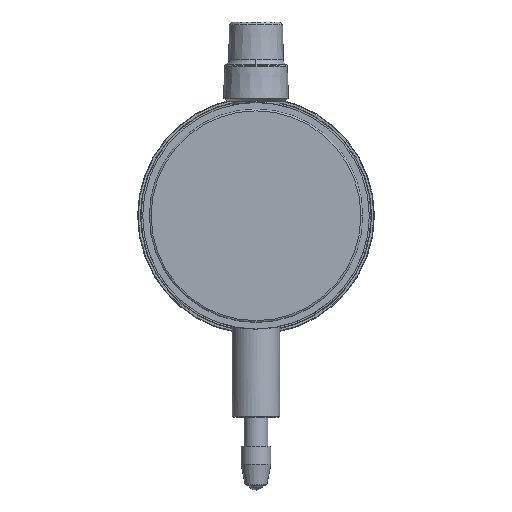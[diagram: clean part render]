
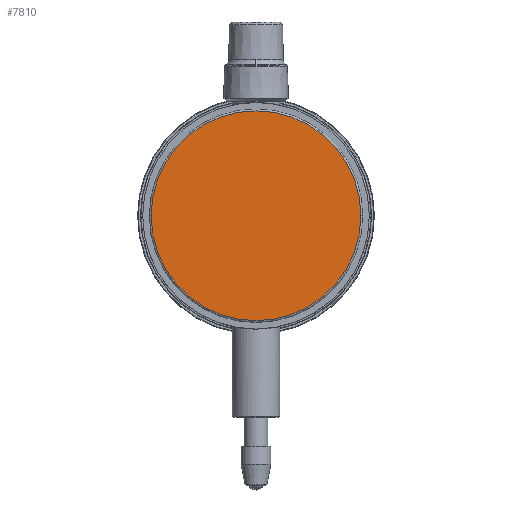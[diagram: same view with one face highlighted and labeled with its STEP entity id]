
A CAD part, left-side view. The second image highlights one B-rep face of the part: STEP entity #7810.
In plain terms, the highlighted planar face has unit normal (-1, 0, 0).
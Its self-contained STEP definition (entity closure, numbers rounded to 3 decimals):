
#7570=CARTESIAN_POINT('',(-1.8,0.,-8.95)
);
#7580=DIRECTION('',(1.,-0.,0.));
#7590=DIRECTION('',(0.,0.,-1.));
#7600=AXIS2_PLACEMENT_3D('',#7570,#7580,#7590);
#7610=PLANE('',#7600);
#7620=CARTESIAN_POINT('',(-1.8,0.,0.));
#7630=DIRECTION('',(-1.,0.,0.));
#7640=DIRECTION('',(0.,1.,0.));
#7650=AXIS2_PLACEMENT_3D('',#7620,#7630,#7640);
#7660=CIRCLE('',#7650,17.6);
#7670=CARTESIAN_POINT('',(-1.8,-17.6,0.));
#7680=VERTEX_POINT('',#7670);
#7690=CARTESIAN_POINT('',(-1.8,17.6,0.));
#7700=VERTEX_POINT('',#7690);
#7710=EDGE_CURVE('',#7680,#7700,#7660,.T.);
#7720=ORIENTED_EDGE('',*,*,#7710,.T.);
#7730=CARTESIAN_POINT('',(-1.8,0.,-17.6))
;
#7740=VERTEX_POINT('',#7730);
#7750=EDGE_CURVE('',#7740,#7680,#7660,.T.);
#7760=ORIENTED_EDGE('',*,*,#7750,.T.);
#7770=EDGE_CURVE('',#7700,#7740,#7660,.T.);
#7780=ORIENTED_EDGE('',*,*,#7770,.T.);
#7790=EDGE_LOOP('',(#7780,#7760,#7720));
#7800=FACE_OUTER_BOUND('',#7790,.T.);
#7810=ADVANCED_FACE('',(#7800),#7610,.F.);
